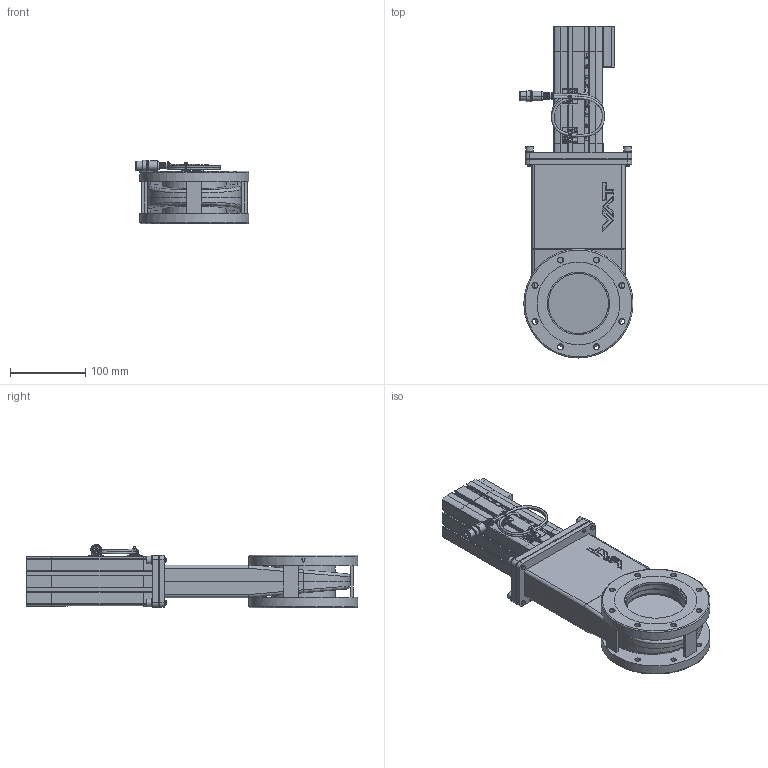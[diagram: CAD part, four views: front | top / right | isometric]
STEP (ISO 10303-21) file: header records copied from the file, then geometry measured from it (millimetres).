
FILE_DESCRIPTION(/* description */ (''),/* implementation_level */ '2;1');
FILE_NAME(/* name */ '1519469023_203.stp',/* time_stamp */ '2022-03-03T14:31:21+01:00',/* author */ (''),/* organization */ (''),/* preprocessor_version */ 'ST-DEVELOPER v18.1',/* originating_system */ 'SIEMENS PLM Software NX 1973',/* authorisation */ '');
FILE_SCHEMA (('AP203_CONFIGURATION_CONTROLLED_3D_DESIGN_OF_MECHANICAL_PARTS_AND_ASSEMBLIES_MIM_LF { 1 0 10303 403 2 1 2}'));
Length unit declared in the file: millimetre
Products named in the file (25): 350769.3_34851ID; 351945.10_34882ID; 351945.10_34845ID; 408099; 1004904; 487660; 411636_34916ID; 1134543; 343001.1; 1041281; 351298.6_34881ID; 351298.6_34892ID; 251262.4; 351301.5_34868ID; 351301.5_34676ID; 1085547; 984070; 708169; 708168; 493762; 1081830_NX-ARRAGMNTDN080, Standard v3 ; 1004824_NX-ARRAGMNTOpen ohne SV; 351296.12_NX-ARRAGMNTunbearbeitet Original; 351302.14; 1095389
Assembly tree (37 placements, depth 4):
  1095389
    351302.14
      351301.5_34676ID
      351301.5_34868ID
      351296.12_NX-ARRAGMNTunbearbeitet Original
        351945.10_34845ID
        351945.10_34882ID
        350769.3_34851ID
      251262.4  x3
      351298.6_34892ID
      351298.6_34881ID
    493762
    708168  x4
    708169  x4
    1004824_NX-ARRAGMNTOpen ohne SV
      1041281
      343001.1  x2
      1134543
    1081830_NX-ARRAGMNTDN080, Standard v3 
      411636_34916ID
      487660  x2
      1004904
      408099  x2
    984070  x2
    1085547  x2
Bounding box: 151.4 x 441.6 x 84.4 mm (x, y, z)
Volume: 1323640.8 mm3; surface area: 395408.9 mm2
Topology: 66 solids, 66 shells, 2787 faces, 7093 edges, 4455 vertices
Faces by surface type: plane 1340, cylinder 726, bspline 278, cone 211, torus 108, sphere 68, extrusion 48, revolution 8
Full cylindrical faces by diameter (mm): 2.46 x2, 2.5 x2, 2.9 x2, 3 x4, 3.4 x2, 4 x4, 4.5 x2, 5 x4, 5.2 x2, 5.22 x4, 5.5 x2, 6 x8, 6.4 x4, 6.5 x4, 7.2 x16, 10 x4, 11 x4, 25.345 x1, 80.1 x4, 80.3 x4, 83.1 x2, 84.1 x2, 84.6 x2, 145 x2
Entity records: 81379 total; most frequent: CARTESIAN_POINT 25265, ORIENTED_EDGE 11040, DIRECTION 9895, EDGE_CURVE 5520, VERTEX_POINT 3633, AXIS2_PLACEMENT_3D 3519, VECTOR 2853, LINE 2805
